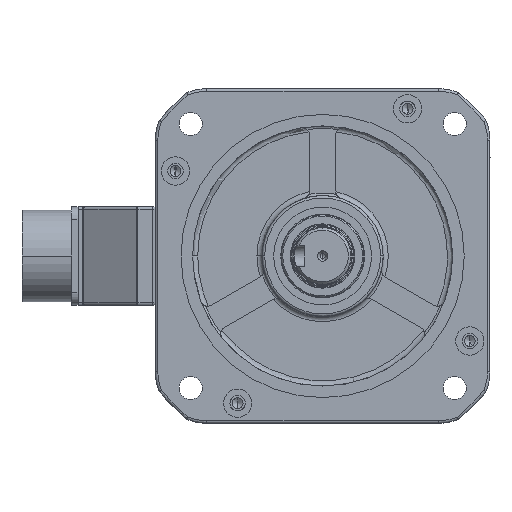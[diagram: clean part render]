
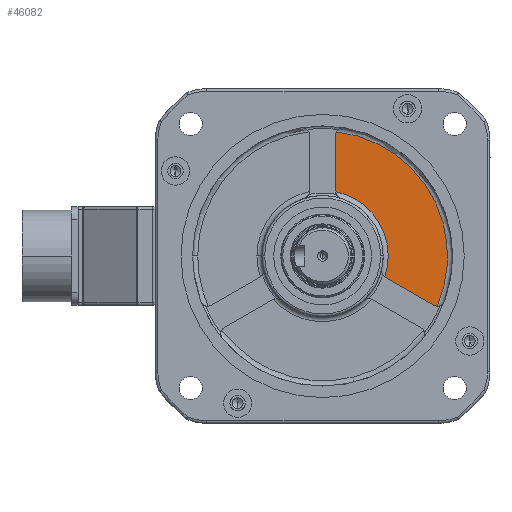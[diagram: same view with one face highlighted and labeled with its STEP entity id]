
A CAD part, left-side view. The second image highlights one B-rep face of the part: STEP entity #46082.
In plain terms, the highlighted planar face has unit normal (-1, 0, 0) as drawn and (0, 0, 1) by its records, which use the part's own axes.
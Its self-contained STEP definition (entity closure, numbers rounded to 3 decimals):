
#676 = VERTEX_POINT ( 'NONE', #34891 ) ;
#922 = EDGE_CURVE ( 'NONE', #32957, #72651, #67936, .T. ) ;
#5390 = CIRCLE ( 'NONE', #23129, 25.5 ) ;
#8925 = ORIENTED_EDGE ( 'NONE', *, *, #82755, .T. ) ;
#9448 = DIRECTION ( 'NONE',  ( 1., 0., 0. ) ) ;
#9962 = DIRECTION ( 'NONE',  ( 1., 0., 0. ) ) ;
#14711 = ORIENTED_EDGE ( 'NONE', *, *, #45831, .T. ) ;
#14745 = CARTESIAN_POINT ( 'NONE',  ( -5., -25.264, 0.5 ) ) ;
#17228 = DIRECTION ( 'NONE',  ( 1., 0., 0. ) ) ;
#20164 = EDGE_LOOP ( 'NONE', ( #73056, #70332, #14711, #31335, #73931, #33938, #8925, #44982 ) ) ;
#20935 = DIRECTION ( 'NONE',  ( 0., 0., 1. ) ) ;
#22386 = DIRECTION ( 'NONE',  ( 0., 0., 1. ) ) ;
#23129 = AXIS2_PLACEMENT_3D ( 'NONE', #57421, #50586, #63829 ) ;
#23529 = VERTEX_POINT ( 'NONE', #29470 ) ;
#23721 = AXIS2_PLACEMENT_3D ( 'NONE', #36418, #37266, #17228 ) ;
#24417 = DIRECTION ( 'NONE',  ( 0., -1., 0. ) ) ;
#26307 = EDGE_CURVE ( 'NONE', #29240, #49277, #42116, .T. ) ;
#29240 = VERTEX_POINT ( 'NONE', #68402 ) ;
#29470 = CARTESIAN_POINT ( 'NONE',  ( -5.338, -48.205, 0.5 ) ) ;
#29773 = CARTESIAN_POINT ( 'NONE',  ( -5.011, -25.003, 0.5 ) ) ;
#29832 = AXIS2_PLACEMENT_3D ( 'NONE', #41997, #22386, #9962 ) ;
#31335 = ORIENTED_EDGE ( 'NONE', *, *, #26307, .T. ) ;
#32352 = VECTOR ( 'NONE', #24417, 1000. ) ;
#32369 = CARTESIAN_POINT ( 'NONE',  ( -43.049, 19.081, 0.5 ) ) ;
#32957 = VERTEX_POINT ( 'NONE', #14745 ) ;
#33938 = ORIENTED_EDGE ( 'NONE', *, *, #49748, .T. ) ;
#34891 = CARTESIAN_POINT ( 'NONE',  ( -44.416, 19.48, 0.5 ) ) ;
#36393 = AXIS2_PLACEMENT_3D ( 'NONE', #68814, #48726, #9448 ) ;
#36408 = EDGE_CURVE ( 'NONE', #72651, #42542, #5390, .T. ) ;
#36418 = CARTESIAN_POINT ( 'NONE',  ( -8., -46.821, 0.5 ) ) ;
#37266 = DIRECTION ( 'NONE',  ( 0., 0., 1. ) ) ;
#39419 = CIRCLE ( 'NONE', #29832, 3. ) ;
#41997 = CARTESIAN_POINT ( 'NONE',  ( -44.549, 16.483, 0.5 ) ) ;
#42116 = LINE ( 'NONE', #44574, #42371 ) ;
#42371 = VECTOR ( 'NONE', #57365, 1000. ) ;
#42542 = VERTEX_POINT ( 'NONE', #60747 ) ;
#43212 = AXIS2_PLACEMENT_3D ( 'NONE', #79436, #20935, #45742 ) ;
#43808 = DIRECTION ( 'NONE',  ( 0., 0., 1. ) ) ;
#44574 = CARTESIAN_POINT ( 'NONE',  ( -2.5, -4.33, 0.5 ) ) ;
#44982 = ORIENTED_EDGE ( 'NONE', *, *, #45965, .F. ) ;
#45742 = DIRECTION ( 'NONE',  ( 1., 0., 0. ) ) ;
#45831 = EDGE_CURVE ( 'NONE', #42542, #29240, #73206, .T. ) ;
#45965 = EDGE_CURVE ( 'NONE', #32957, #59694, #50008, .T. ) ;
#46082 = ADVANCED_FACE ( 'NONE', ( #59775 ), #52559, .T. ) ;
#46606 = DIRECTION ( 'NONE',  ( 0., 0., 1. ) ) ;
#48726 = DIRECTION ( 'NONE',  ( 0., 0., 1. ) ) ;
#49277 = VERTEX_POINT ( 'NONE', #32369 ) ;
#49596 = CIRCLE ( 'NONE', #23721, 3. ) ;
#49748 = EDGE_CURVE ( 'NONE', #676, #23529, #50126, .T. ) ;
#50008 = LINE ( 'NONE', #56848, #32352 ) ;
#50126 = CIRCLE ( 'NONE', #66452, 48.5 ) ;
#50586 = DIRECTION ( 'NONE',  ( 0., 0., -1. ) ) ;
#51075 = EDGE_CURVE ( 'NONE', #49277, #676, #39419, .T. ) ;
#52559 = PLANE ( 'NONE',  #43212 ) ;
#56848 = CARTESIAN_POINT ( 'NONE',  ( -5., 0., 0.5 ) ) ;
#57365 = DIRECTION ( 'NONE',  ( -0.866, 0.5, 0. ) ) ;
#57421 = CARTESIAN_POINT ( 'NONE',  ( 0., 0., 0.5 ) ) ;
#59694 = VERTEX_POINT ( 'NONE', #83545 ) ;
#59775 = FACE_OUTER_BOUND ( 'NONE', #20164, .T. ) ;
#60747 = CARTESIAN_POINT ( 'NONE',  ( -24.159, 8.161, 0.5 ) ) ;
#63829 = DIRECTION ( 'NONE',  ( 1., 0., 0. ) ) ;
#66452 = AXIS2_PLACEMENT_3D ( 'NONE', #66649, #46606, #71836 ) ;
#66649 = CARTESIAN_POINT ( 'NONE',  ( 0., 0., 0.5 ) ) ;
#67760 = AXIS2_PLACEMENT_3D ( 'NONE', #76276, #43808, #81417 ) ;
#67936 = CIRCLE ( 'NONE', #67760, 3. ) ;
#68402 = CARTESIAN_POINT ( 'NONE',  ( -24.379, 8.302, 0.5 ) ) ;
#68814 = CARTESIAN_POINT ( 'NONE',  ( -25.879, 5.704, 0.5 ) ) ;
#70332 = ORIENTED_EDGE ( 'NONE', *, *, #36408, .T. ) ;
#71836 = DIRECTION ( 'NONE',  ( 1., 0., 0. ) ) ;
#72651 = VERTEX_POINT ( 'NONE', #29773 ) ;
#73056 = ORIENTED_EDGE ( 'NONE', *, *, #922, .T. ) ;
#73206 = CIRCLE ( 'NONE', #36393, 3. ) ;
#73931 = ORIENTED_EDGE ( 'NONE', *, *, #51075, .T. ) ;
#76276 = CARTESIAN_POINT ( 'NONE',  ( -8., -25.264, 0.5 ) ) ;
#79436 = CARTESIAN_POINT ( 'NONE',  ( 0., 0., 0.5 ) ) ;
#81417 = DIRECTION ( 'NONE',  ( 1., 0., 0. ) ) ;
#82755 = EDGE_CURVE ( 'NONE', #23529, #59694, #49596, .T. ) ;
#83545 = CARTESIAN_POINT ( 'NONE',  ( -5., -46.821, 0.5 ) ) ;
